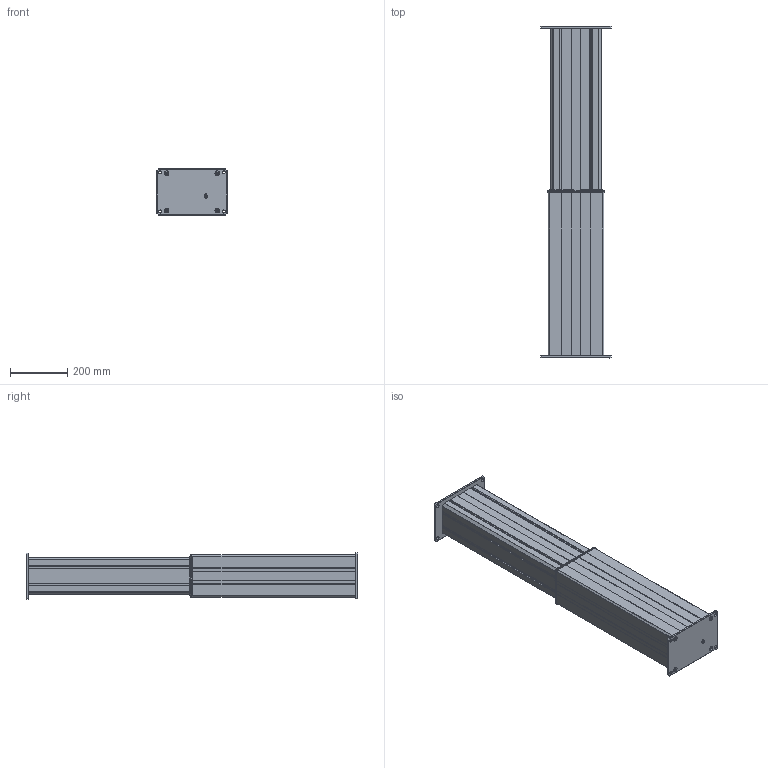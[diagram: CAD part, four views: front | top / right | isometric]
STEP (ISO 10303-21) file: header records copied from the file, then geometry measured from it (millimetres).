
FILE_DESCRIPTION((''),'2;1');
FILE_NAME('0579002_570_8_ASM_1_ASM','2023-05-08T08:22:09',('jak'),(''),'CREO PARAMETRIC BY PTC INC, 2022024','CREO PARAMETRIC BY PTC INC, 2022024','');
FILE_SCHEMA(('AUTOMOTIVE_DESIGN { 1 0 10303 214 1 1 1 1 }'));
Products named in the file (6): 0571005_570_1; 0571003_580_1; 0571052_1; 0571006_1; 0571007_1; 0579002_570_8_ASM_1_ASM
Assembly tree (5 placements, depth 2):
  0579002_570_8_ASM_1_ASM
    0571005_570_1
    0571003_580_1
    0571052_1
    0571006_1
    0571007_1
Bounding box: 244.2 x 1155 x 160.3 mm (x, y, z)
Volume: 3940375.1 mm3; surface area: 1855165.7 mm2
Topology: 5 solids, 5 shells, 1994 faces, 5466 edges, 3480 vertices
Faces by surface type: cylinder 841, plane 709, bspline 304, sphere 96, cone 44
Entity records: 75654 total; most frequent: CARTESIAN_POINT 26214, ORIENTED_EDGE 10932, DIRECTION 9646, EDGE_CURVE 5466, VERTEX_POINT 3480, AXIS2_PLACEMENT_3D 3439, VECTOR 2768, LINE 2768
